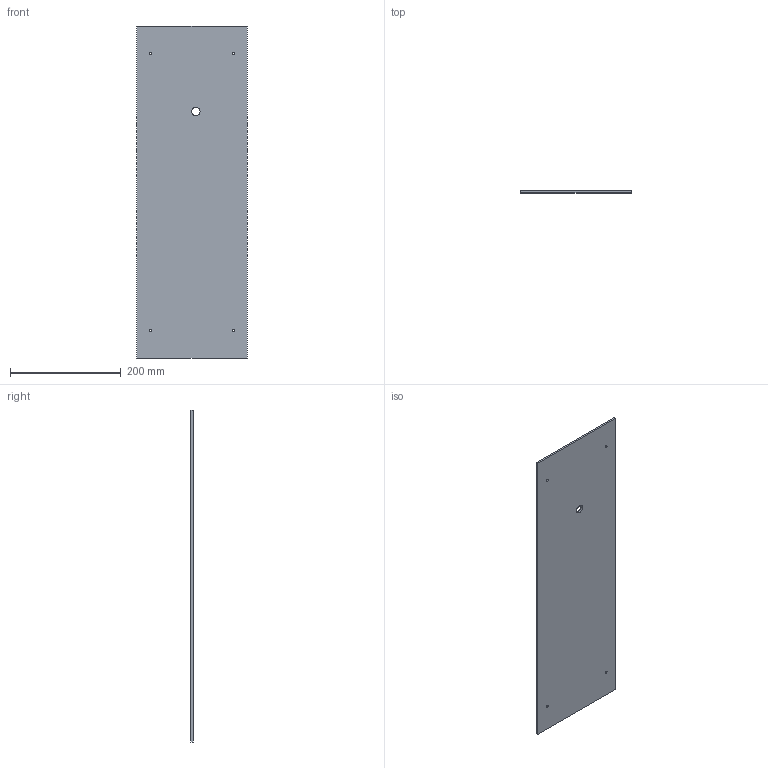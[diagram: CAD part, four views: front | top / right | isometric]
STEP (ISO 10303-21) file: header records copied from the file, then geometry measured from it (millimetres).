
FILE_DESCRIPTION(('Open CASCADE Model'),'2;1');
FILE_NAME('Open CASCADE Shape Model','2026-11-14T16:02:41',('Author'),( 'Open CASCADE'),'Open CASCADE STEP processor 7.9','Open CASCADE 7.9' ,'Unknown');
FILE_SCHEMA(('AUTOMOTIVE_DESIGN { 1 0 10303 214 1 1 1 1 }'));
Length unit declared in the file: millimetre
Products named in the file (1): Open CASCADE STEP translator 7.9 244
Bounding box: 200 x 4 x 600 mm (x, y, z)
Volume: 479038.7 mm3; surface area: 246334 mm2
Topology: 1 solids, 1 shells, 11 faces, 27 edges, 18 vertices
Faces by surface type: plane 6, cylinder 5
Full cylindrical faces by diameter (mm): 4.5 x4, 15 x1
Entity records: 712 total; most frequent: DIRECTION 115, CARTESIAN_POINT 111, LINE 61, VECTOR 61, ORIENTED_EDGE 54, PCURVE 54, DEFINITIONAL_REPRESENTATION 54, EDGE_CURVE 27
